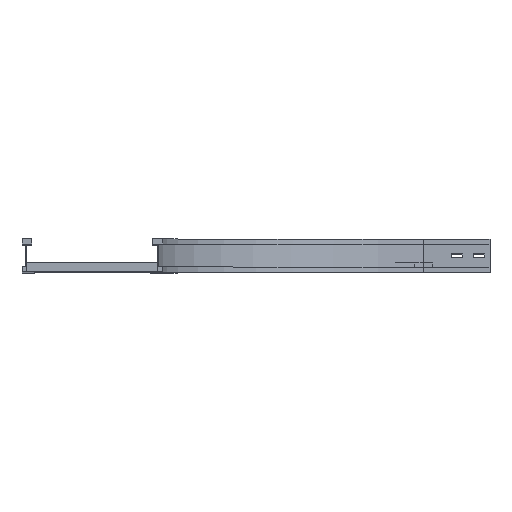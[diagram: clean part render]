
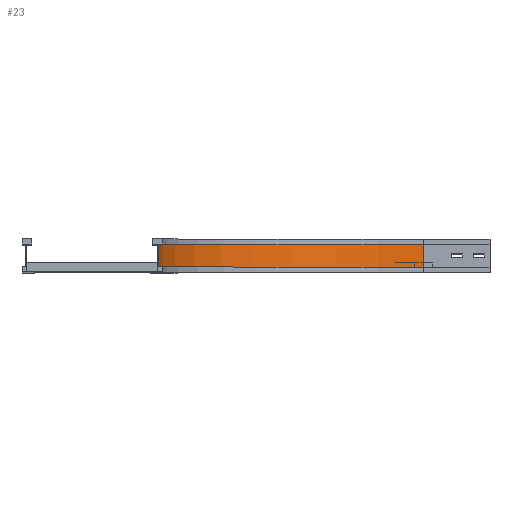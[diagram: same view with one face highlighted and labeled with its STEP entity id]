
A CAD part, top view. The second image highlights one B-rep face of the part: STEP entity #23.
In plain terms, the highlighted cylindrical face has radius 600 mm (diameter 1200 mm), a partial arc.
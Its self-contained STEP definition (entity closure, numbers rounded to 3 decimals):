
#23 = ADVANCED_FACE ( 'NONE', ( #2959 ), #2685, .F. ) ;
#157 = CARTESIAN_POINT ( 'NONE',  ( -9., 12., -150. ) ) ;
#281 = VECTOR ( 'NONE', #1901, 1000. ) ;
#318 = DIRECTION ( 'NONE',  ( 0., -1., 0. ) ) ;
#409 = AXIS2_PLACEMENT_3D ( 'NONE', #3383, #318, #1422 ) ;
#555 = VERTEX_POINT ( 'NONE', #2432 ) ;
#732 = CARTESIAN_POINT ( 'NONE',  ( 591., 0., -150. ) ) ;
#782 = CARTESIAN_POINT ( 'NONE',  ( 591., 12., -750. ) ) ;
#998 = VECTOR ( 'NONE', #1920, 1000. ) ;
#1064 = EDGE_CURVE ( 'NONE', #555, #2662, #3092, .T. ) ;
#1242 = ORIENTED_EDGE ( 'NONE', *, *, #1336, .T. ) ;
#1336 = EDGE_CURVE ( 'NONE', #2863, #2662, #2789, .T. ) ;
#1359 = EDGE_CURVE ( 'NONE', #3291, #555, #2452, .T. ) ;
#1422 = DIRECTION ( 'NONE',  ( -1., 0., 0. ) ) ;
#1470 = CARTESIAN_POINT ( 'NONE',  ( 591., 63., -750. ) ) ;
#1619 = DIRECTION ( 'NONE',  ( 0., -1., 0. ) ) ;
#1629 = CARTESIAN_POINT ( 'NONE',  ( -9., 12., -150. ) ) ;
#1901 = DIRECTION ( 'NONE',  ( 0., 1., 0. ) ) ;
#1920 = DIRECTION ( 'NONE',  ( 0., 1., 0. ) ) ;
#2102 = DIRECTION ( 'NONE',  ( 0., -1., 0. ) ) ;
#2204 = EDGE_CURVE ( 'NONE', #3291, #2863, #2532, .T. ) ;
#2378 = EDGE_LOOP ( 'NONE', ( #2486, #2609, #2865, #1242 ) ) ;
#2432 = CARTESIAN_POINT ( 'NONE',  ( -9., 63., -150. ) ) ;
#2452 = LINE ( 'NONE', #1629, #998 ) ;
#2484 = CARTESIAN_POINT ( 'NONE',  ( 591., 12., -150. ) ) ;
#2486 = ORIENTED_EDGE ( 'NONE', *, *, #1064, .F. ) ;
#2532 = CIRCLE ( 'NONE', #3242, 600. ) ;
#2609 = ORIENTED_EDGE ( 'NONE', *, *, #1359, .F. ) ;
#2662 = VERTEX_POINT ( 'NONE', #1470 ) ;
#2668 = CARTESIAN_POINT ( 'NONE',  ( 591., 12., -750. ) ) ;
#2669 = DIRECTION ( 'NONE',  ( 0., 0., -1. ) ) ;
#2685 = CYLINDRICAL_SURFACE ( 'NONE', #2828, 600. ) ;
#2789 = LINE ( 'NONE', #782, #281 ) ;
#2828 = AXIS2_PLACEMENT_3D ( 'NONE', #732, #2102, #2669 ) ;
#2863 = VERTEX_POINT ( 'NONE', #2668 ) ;
#2865 = ORIENTED_EDGE ( 'NONE', *, *, #2204, .T. ) ;
#2959 = FACE_OUTER_BOUND ( 'NONE', #2378, .T. ) ;
#2979 = DIRECTION ( 'NONE',  ( -1., 0., 0. ) ) ;
#3092 = CIRCLE ( 'NONE', #409, 600. ) ;
#3242 = AXIS2_PLACEMENT_3D ( 'NONE', #2484, #1619, #2979 ) ;
#3291 = VERTEX_POINT ( 'NONE', #157 ) ;
#3383 = CARTESIAN_POINT ( 'NONE',  ( 591., 63., -150. ) ) ;
